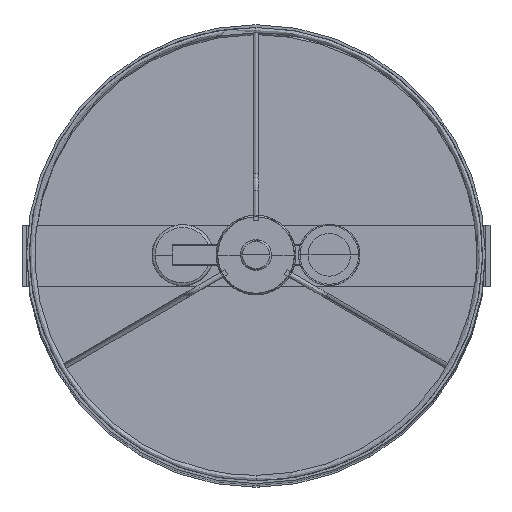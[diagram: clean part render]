
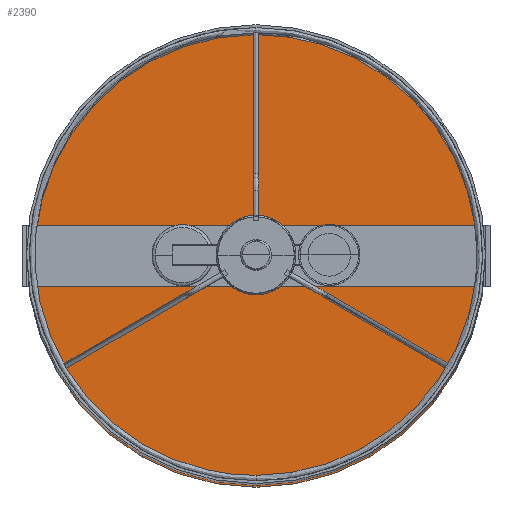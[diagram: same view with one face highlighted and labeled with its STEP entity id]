
A CAD part, top view. The second image highlights one B-rep face of the part: STEP entity #2390.
In plain terms, the highlighted planar face has unit normal (0, 0, 1).
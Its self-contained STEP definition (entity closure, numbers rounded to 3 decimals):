
#33=FACE_BOUND('',#526,.T.);
#229=PLANE('',#2652);
#364=FACE_OUTER_BOUND('',#525,.T.);
#525=EDGE_LOOP('',(#2056,#2057));
#526=EDGE_LOOP('',(#2058,#2059));
#931=CIRCLE('',#2646,150.);
#933=CIRCLE('',#2649,150.);
#935=CIRCLE('',#2653,8.);
#936=CIRCLE('',#2654,8.);
#1117=VERTEX_POINT('',#7051);
#1118=VERTEX_POINT('',#7052);
#1121=VERTEX_POINT('',#7064);
#1122=VERTEX_POINT('',#7065);
#1436=EDGE_CURVE('',#1117,#1118,#931,.T.);
#1440=EDGE_CURVE('',#1118,#1117,#933,.T.);
#1442=EDGE_CURVE('',#1121,#1122,#935,.T.);
#1443=EDGE_CURVE('',#1122,#1121,#936,.T.);
#2056=ORIENTED_EDGE('',*,*,#1440,.T.);
#2057=ORIENTED_EDGE('',*,*,#1436,.T.);
#2058=ORIENTED_EDGE('',*,*,#1442,.F.);
#2059=ORIENTED_EDGE('',*,*,#1443,.F.);
#2390=ADVANCED_FACE('',(#364,#33),#229,.T.);
#2646=AXIS2_PLACEMENT_3D('',#7053,#3251,#3252);
#2649=AXIS2_PLACEMENT_3D('',#7060,#3259,#3260);
#2652=AXIS2_PLACEMENT_3D('',#7063,#3265,#3266);
#2653=AXIS2_PLACEMENT_3D('',#7066,#3267,#3268);
#2654=AXIS2_PLACEMENT_3D('',#7067,#3269,#3270);
#3251=DIRECTION('center_axis',(0.,0.,1.));
#3252=DIRECTION('ref_axis',(1.,0.,0.));
#3259=DIRECTION('center_axis',(0.,0.,1.));
#3260=DIRECTION('ref_axis',(1.,0.,0.));
#3265=DIRECTION('center_axis',(0.,0.,1.));
#3266=DIRECTION('ref_axis',(0.,1.,0.));
#3267=DIRECTION('center_axis',(0.,0.,1.));
#3268=DIRECTION('ref_axis',(1.,0.,0.));
#3269=DIRECTION('center_axis',(0.,0.,1.));
#3270=DIRECTION('ref_axis',(1.,0.,0.));
#7051=CARTESIAN_POINT('',(150.,0.,7.5));
#7052=CARTESIAN_POINT('',(-150.,0.,7.5));
#7053=CARTESIAN_POINT('Origin',(0.,0.,7.5));
#7060=CARTESIAN_POINT('Origin',(0.,0.,7.5));
#7063=CARTESIAN_POINT('Origin',(150.,0.,7.5));
#7064=CARTESIAN_POINT('',(8.,0.,7.5));
#7065=CARTESIAN_POINT('',(-8.,0.,7.5));
#7066=CARTESIAN_POINT('Origin',(0.,0.,
7.5));
#7067=CARTESIAN_POINT('Origin',(0.,0.,
7.5));
